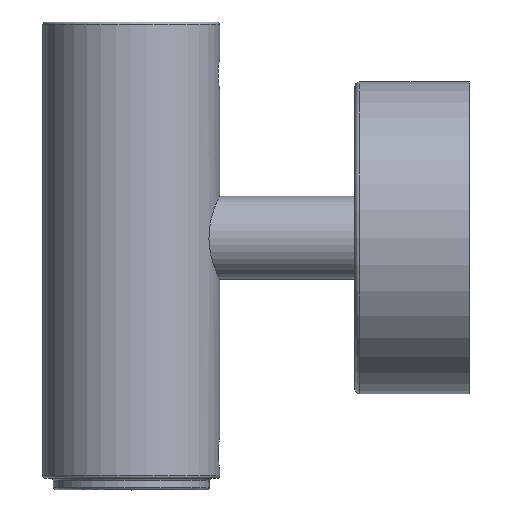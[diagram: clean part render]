
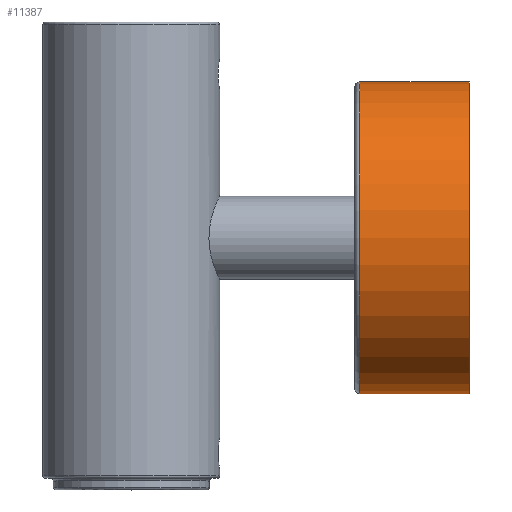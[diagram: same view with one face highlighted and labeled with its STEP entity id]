
A CAD part, top view. The second image highlights one B-rep face of the part: STEP entity #11387.
In plain terms, the highlighted cylindrical face has radius 30 mm (diameter 60 mm), a partial arc.
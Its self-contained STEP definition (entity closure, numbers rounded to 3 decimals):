
#10431=CARTESIAN_POINT('',(44.,0.,0.));
#10432=DIRECTION('',(-1.,0.,0.));
#10433=DIRECTION('',(0.,-1.,0.));
#10434=AXIS2_PLACEMENT_3D('',#10431,#10432,#10433);
#10436=CARTESIAN_POINT('',(65.,0.,0.));
#10437=DIRECTION('',(1.,0.,0.));
#10438=DIRECTION('',(0.,1.,0.));
#10439=AXIS2_PLACEMENT_3D('',#10436,#10437,#10438);
#10446=DIRECTION('',(-1.,0.,0.));
#10447=VECTOR('',#10446,21.);
#10448=CARTESIAN_POINT('',(65.,-30.,0.));
#10449=LINE('',#10448,#10447);
#10455=DIRECTION('',(-1.,0.,0.));
#10456=VECTOR('',#10455,21.);
#10457=CARTESIAN_POINT('',(65.,30.,0.));
#10458=LINE('',#10457,#10456);
#10773=CARTESIAN_POINT('',(65.,30.,0.));
#10774=CARTESIAN_POINT('',(65.,-30.,0.));
#10775=VERTEX_POINT('',#10773);
#10776=VERTEX_POINT('',#10774);
#10793=CARTESIAN_POINT('',(44.,30.,0.));
#10794=CARTESIAN_POINT('',(44.,-30.,0.));
#10795=VERTEX_POINT('',#10793);
#10796=VERTEX_POINT('',#10794);
#11373=CARTESIAN_POINT('',(41.9,0.,0.));
#11374=DIRECTION('',(1.,0.,0.));
#11375=DIRECTION('',(0.,-1.,0.));
#11376=AXIS2_PLACEMENT_3D('',#11373,#11374,#11375);
#11377=CYLINDRICAL_SURFACE('',#11376,30.);
#11378=ORIENTED_EDGE('',*,*,#11360,.T.);
#11380=ORIENTED_EDGE('',*,*,#11379,.F.);
#11382=ORIENTED_EDGE('',*,*,#11381,.T.);
#11384=ORIENTED_EDGE('',*,*,#11383,.T.);
#11385=EDGE_LOOP('',(#11378,#11380,#11382,#11384));
#11386=FACE_OUTER_BOUND('',#11385,.F.);
#10435=CIRCLE('',#10434,30.);
#10440=CIRCLE('',#10439,30.);
#11360=EDGE_CURVE('',#10796,#10795,#10435,.T.);
#11379=EDGE_CURVE('',#10775,#10795,#10458,.T.);
#11381=EDGE_CURVE('',#10775,#10776,#10440,.T.);
#11383=EDGE_CURVE('',#10776,#10796,#10449,.T.);
#11387=ADVANCED_FACE('',(#11386),#11377,.T.);
